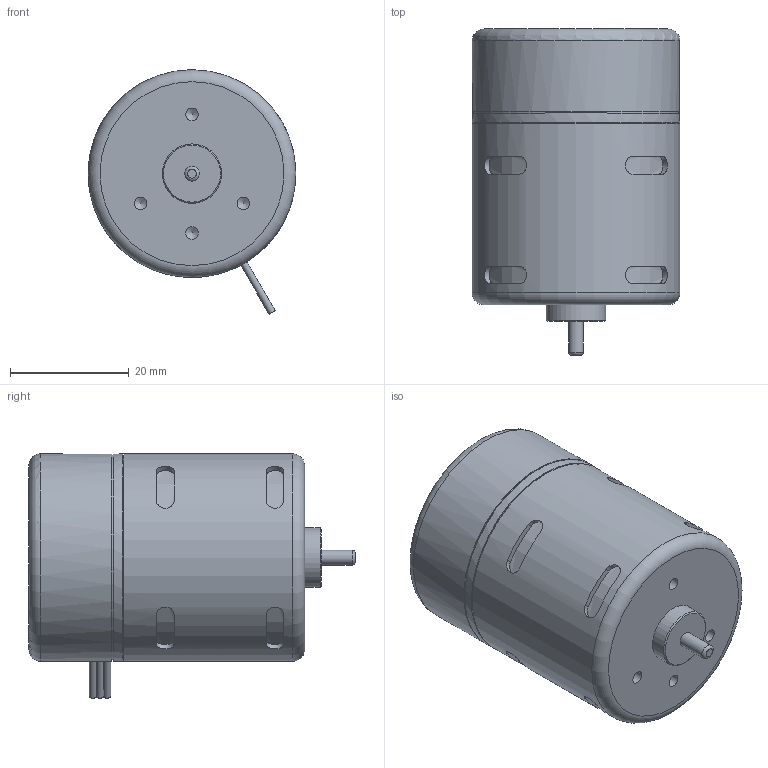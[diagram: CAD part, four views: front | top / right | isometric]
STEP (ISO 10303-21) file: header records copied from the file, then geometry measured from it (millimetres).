
FILE_DESCRIPTION((''),'2;1');
FILE_NAME('C:\Documents and Settings\SSEGAWA\デスクトップ\TP-3546B.STP','2013-06-14T13:30:01',('SSEGAWA'),(''),'Autodesk Inventor 2010','Autodesk Inventor 2010','');
FILE_SCHEMA(('CONFIG_CONTROL_DESIGN'));
Length unit declared in the file: millimetre
Products named in the file (1): tp_3546
Bounding box: 35 x 55 x 41.18 mm (x, y, z)
Volume: 44555.2 mm3; surface area: 7433.7 mm2
Topology: 1 solids, 1 shells, 79 faces, 183 edges, 117 vertices
Faces by surface type: cylinder 35, plane 32, bspline 8, torus 3, cone 1
Full cylindrical faces by diameter (mm): 1.2 x2, 2.5 x1, 10 x1, 34.6 x1, 35 x3
Entity records: 2686 total; most frequent: CARTESIAN_POINT 1036, DIRECTION 334, ORIENTED_EDGE 308, EDGE_CURVE 154, AXIS2_PLACEMENT_3D 140, EDGE_LOOP 110, VERTEX_POINT 106, FACE_OUTER_BOUND 79
